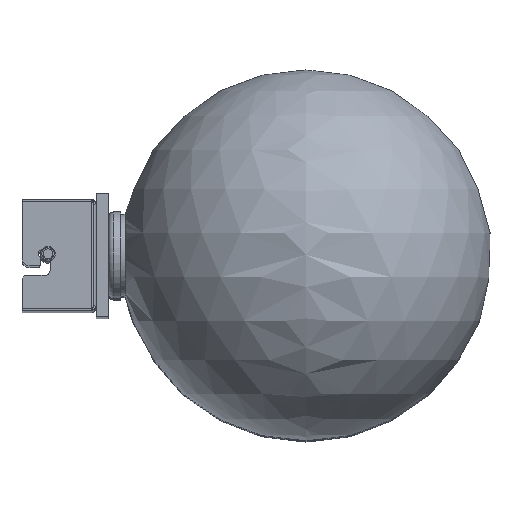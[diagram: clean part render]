
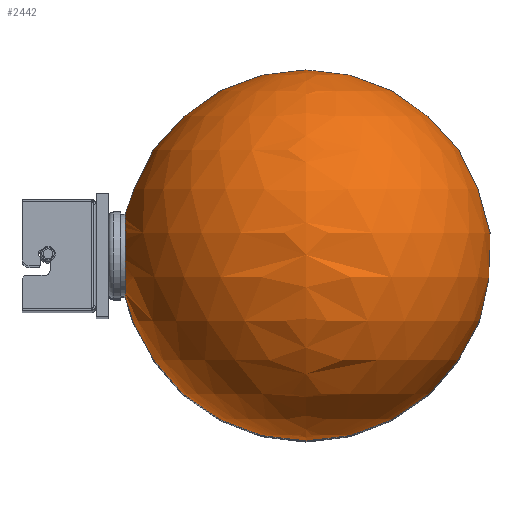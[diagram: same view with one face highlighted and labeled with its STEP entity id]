
A CAD part, top view. The second image highlights one B-rep face of the part: STEP entity #2442.
In plain terms, the highlighted spherical face has radius 75 mm.
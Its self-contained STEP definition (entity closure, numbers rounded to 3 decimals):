
#52=FACE_BOUND('',#821,.T.);
#66=SPHERICAL_SURFACE('',#2727,75.);
#100=B_SPLINE_CURVE_WITH_KNOTS('',3,(#4659,#4660,#4661,#4662,#4663,#4664,
#4665,#4666,#4667,#4668,#4669,#4670,#4671,#4672,#4673,#4674,#4675,#4676,
#4677,#4678,#4679,#4680,#4681,#4682,#4683,#4684,#4685,#4686,#4687,#4688,
#4689,#4690,#4691,#4692),.UNSPECIFIED.,.F.,.F.,(4,2,2,2,2,2,2,2,2,2,2,2,
2,2,2,2,4),(0.,0.311,0.622,0.932,1.243,
1.554,1.865,2.175,2.486,2.797,
3.108,3.418,3.729,4.04,4.351,
4.662,4.972),.UNSPECIFIED.);
#101=B_SPLINE_CURVE_WITH_KNOTS('',3,(#4693,#4694,#4695,#4696,#4697,#4698,
#4699,#4700,#4701,#4702,#4703,#4704,#4705,#4706,#4707,#4708,#4709,#4710,
#4711,#4712,#4713,#4714,#4715,#4716,#4717,#4718,#4719,#4720,#4721,#4722,
#4723,#4724,#4725,#4726),.UNSPECIFIED.,.F.,.F.,(4,2,2,2,2,2,2,2,2,2,2,2,
2,2,2,2,4),(4.972,5.283,5.594,5.905,
6.215,6.526,6.837,7.148,7.458,
7.769,8.08,8.391,8.701,9.012,
9.323,9.634,9.945),.UNSPECIFIED.);
#651=FACE_OUTER_BOUND('',#820,.T.);
#820=EDGE_LOOP('',(#2156,#2157));
#821=EDGE_LOOP('',(#2158,#2159));
#959=CIRCLE('',#2728,75.);
#1173=VERTEX_POINT('',#4654);
#1174=VERTEX_POINT('',#4655);
#1175=VERTEX_POINT('',#4657);
#1176=VERTEX_POINT('',#4658);
#1509=EDGE_CURVE('',#1173,#1174,#959,.T.);
#1510=EDGE_CURVE('',#1175,#1176,#100,.T.);
#1511=EDGE_CURVE('',#1176,#1175,#101,.T.);
#2156=ORIENTED_EDGE('',*,*,#1509,.T.);
#2157=ORIENTED_EDGE('',*,*,#1509,.F.);
#2158=ORIENTED_EDGE('',*,*,#1510,.T.);
#2159=ORIENTED_EDGE('',*,*,#1511,.T.);
#2442=ADVANCED_FACE('',(#651,#52),#66,.T.);
#2727=AXIS2_PLACEMENT_3D('',#4653,#3407,#3408);
#2728=AXIS2_PLACEMENT_3D('',#4656,#3409,#3410);
#3407=DIRECTION('center_axis',(0.,1.,0.));
#3408=DIRECTION('ref_axis',(0.,0.,-1.));
#3409=DIRECTION('center_axis',(1.,0.,0.));
#3410=DIRECTION('ref_axis',(0.,0.,1.));
#4653=CARTESIAN_POINT('Origin',(114.911,0.,425.111));
#4654=CARTESIAN_POINT('',(114.911,75.,425.111));
#4655=CARTESIAN_POINT('',(114.911,-75.,425.111));
#4656=CARTESIAN_POINT('Origin',(114.911,0.,425.111));
#4657=CARTESIAN_POINT('',(41.77,8.25,410.711));
#4658=CARTESIAN_POINT('',(41.727,-8.25,439.289));
#4659=CARTESIAN_POINT('Ctrl Pts',(41.77,8.25,410.711));
#4660=CARTESIAN_POINT('Ctrl Pts',(41.77,9.147,411.229));
#4661=CARTESIAN_POINT('Ctrl Pts',(41.769,10.025,411.85));
#4662=CARTESIAN_POINT('Ctrl Pts',(41.766,11.662,413.277));
#4663=CARTESIAN_POINT('Ctrl Pts',(41.765,12.421,414.083));
#4664=CARTESIAN_POINT('Ctrl Pts',(41.763,13.76,415.828));
#4665=CARTESIAN_POINT('Ctrl Pts',(41.761,14.342,416.769));
#4666=CARTESIAN_POINT('Ctrl Pts',(41.758,15.297,418.72));
#4667=CARTESIAN_POINT('Ctrl Pts',(41.757,15.67,419.729));
#4668=CARTESIAN_POINT('Ctrl Pts',(41.754,16.206,421.73));
#4669=CARTESIAN_POINT('Ctrl Pts',(41.752,16.387,422.79));
#4670=CARTESIAN_POINT('Ctrl Pts',(41.749,16.536,424.957));
#4671=CARTESIAN_POINT('Ctrl Pts',(41.747,16.502,426.063));
#4672=CARTESIAN_POINT('Ctrl Pts',(41.744,16.215,428.244));
#4673=CARTESIAN_POINT('Ctrl Pts',(41.742,15.961,429.321));
#4674=CARTESIAN_POINT('Ctrl Pts',(41.739,15.257,431.376));
#4675=CARTESIAN_POINT('Ctrl Pts',(41.738,14.807,432.353));
#4676=CARTESIAN_POINT('Ctrl Pts',(41.735,13.771,434.147));
#4677=CARTESIAN_POINT('Ctrl Pts',(41.733,13.15,435.025));
#4678=CARTESIAN_POINT('Ctrl Pts',(41.731,11.723,436.662));
#4679=CARTESIAN_POINT('Ctrl Pts',(41.73,10.917,437.421));
#4680=CARTESIAN_POINT('Ctrl Pts',(41.728,9.172,438.76));
#4681=CARTESIAN_POINT('Ctrl Pts',(41.727,8.231,439.342));
#4682=CARTESIAN_POINT('Ctrl Pts',(41.726,6.28,440.297));
#4683=CARTESIAN_POINT('Ctrl Pts',(41.725,5.271,440.67));
#4684=CARTESIAN_POINT('Ctrl Pts',(41.724,3.27,441.206));
#4685=CARTESIAN_POINT('Ctrl Pts',(41.724,2.209,441.387));
#4686=CARTESIAN_POINT('Ctrl Pts',(41.724,0.043,441.536));
#4687=CARTESIAN_POINT('Ctrl Pts',(41.724,-1.063,441.502));
#4688=CARTESIAN_POINT('Ctrl Pts',(41.724,-3.244,441.215));
#4689=CARTESIAN_POINT('Ctrl Pts',(41.725,-4.321,440.961));
#4690=CARTESIAN_POINT('Ctrl Pts',(41.726,-6.376,440.257));
#4691=CARTESIAN_POINT('Ctrl Pts',(41.726,-7.353,439.807));
#4692=CARTESIAN_POINT('Ctrl Pts',(41.727,-8.25,439.289));
#4693=CARTESIAN_POINT('Ctrl Pts',(41.727,-8.25,439.289));
#4694=CARTESIAN_POINT('Ctrl Pts',(41.728,-9.147,438.771));
#4695=CARTESIAN_POINT('Ctrl Pts',(41.729,-10.025,438.15));
#4696=CARTESIAN_POINT('Ctrl Pts',(41.731,-11.662,436.723));
#4697=CARTESIAN_POINT('Ctrl Pts',(41.732,-12.421,435.917));
#4698=CARTESIAN_POINT('Ctrl Pts',(41.735,-13.76,434.172));
#4699=CARTESIAN_POINT('Ctrl Pts',(41.736,-14.342,433.231));
#4700=CARTESIAN_POINT('Ctrl Pts',(41.739,-15.297,431.28));
#4701=CARTESIAN_POINT('Ctrl Pts',(41.741,-15.67,430.271));
#4702=CARTESIAN_POINT('Ctrl Pts',(41.744,-16.206,428.27));
#4703=CARTESIAN_POINT('Ctrl Pts',(41.745,-16.387,427.21));
#4704=CARTESIAN_POINT('Ctrl Pts',(41.749,-16.536,425.043));
#4705=CARTESIAN_POINT('Ctrl Pts',(41.75,-16.502,423.937));
#4706=CARTESIAN_POINT('Ctrl Pts',(41.754,-16.215,421.756));
#4707=CARTESIAN_POINT('Ctrl Pts',(41.755,-15.961,420.679));
#4708=CARTESIAN_POINT('Ctrl Pts',(41.758,-15.257,418.624));
#4709=CARTESIAN_POINT('Ctrl Pts',(41.76,-14.807,417.647));
#4710=CARTESIAN_POINT('Ctrl Pts',(41.763,-13.771,415.853));
#4711=CARTESIAN_POINT('Ctrl Pts',(41.764,-13.15,414.975));
#4712=CARTESIAN_POINT('Ctrl Pts',(41.766,-11.723,413.338));
#4713=CARTESIAN_POINT('Ctrl Pts',(41.767,-10.917,412.579));
#4714=CARTESIAN_POINT('Ctrl Pts',(41.769,-9.172,411.24));
#4715=CARTESIAN_POINT('Ctrl Pts',(41.77,-8.231,410.658));
#4716=CARTESIAN_POINT('Ctrl Pts',(41.772,-6.28,409.703));
#4717=CARTESIAN_POINT('Ctrl Pts',(41.772,-5.271,409.33));
#4718=CARTESIAN_POINT('Ctrl Pts',(41.773,-3.27,408.794));
#4719=CARTESIAN_POINT('Ctrl Pts',(41.773,-2.209,408.613));
#4720=CARTESIAN_POINT('Ctrl Pts',(41.774,-0.043,
408.464));
#4721=CARTESIAN_POINT('Ctrl Pts',(41.774,1.063,408.498));
#4722=CARTESIAN_POINT('Ctrl Pts',(41.773,3.244,408.785));
#4723=CARTESIAN_POINT('Ctrl Pts',(41.773,4.321,409.039));
#4724=CARTESIAN_POINT('Ctrl Pts',(41.772,6.376,409.743));
#4725=CARTESIAN_POINT('Ctrl Pts',(41.771,7.353,410.193));
#4726=CARTESIAN_POINT('Ctrl Pts',(41.77,8.25,410.711));
